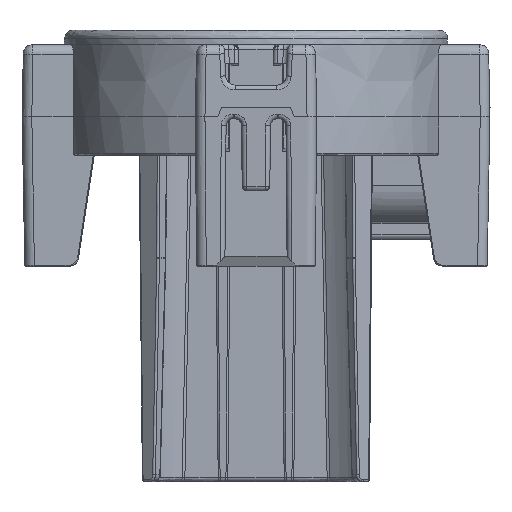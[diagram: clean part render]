
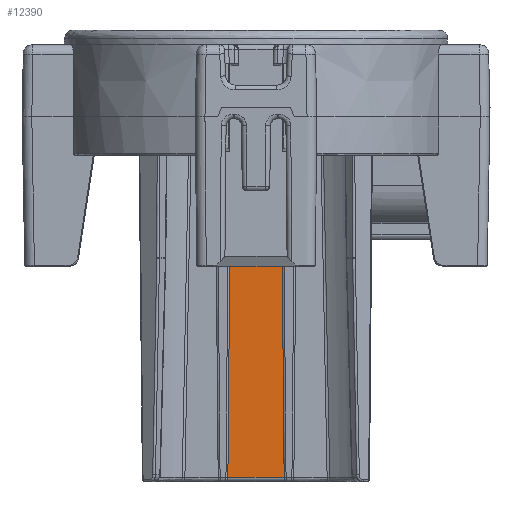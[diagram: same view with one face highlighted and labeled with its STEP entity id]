
A CAD part, left-side view. The second image highlights one B-rep face of the part: STEP entity #12390.
In plain terms, the highlighted planar face has unit normal (-1, 0, -0.009) as drawn and (0, -0.009, -1) by its records, which use the part's own axes.
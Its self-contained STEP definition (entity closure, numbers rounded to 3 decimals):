
#12000=CARTESIAN_POINT('',(21.647,9.487,
25.78));
#12010=DIRECTION('',(0.,-0.009,-1.));
#12020=DIRECTION('',(0.,-1.,0.009));
#12030=AXIS2_PLACEMENT_3D('',#12000,#12010,#12020);
#12040=PLANE('',#12030);
#12050=CARTESIAN_POINT('',(15.661,-15.582,
25.999));
#12060=DIRECTION('',(1.,0.,0.));
#12070=VECTOR('',#12060,1.);
#12080=LINE('',#12050,#12070);
#12090=CARTESIAN_POINT('',(15.661,-15.582,
25.999));
#12100=VERTEX_POINT('',#12090);
#12110=CARTESIAN_POINT('',(21.501,-15.582,
25.999));
#12120=VERTEX_POINT('',#12110);
#12130=EDGE_CURVE('',#12100,#12120,#12080,.T.);
#12140=ORIENTED_EDGE('',*,*,#12130,.F.);
#12150=CARTESIAN_POINT('',(21.365,0.,25.863));
#12160=DIRECTION('',(-0.009,1.,
-0.009));
#12170=VECTOR('',#12160,1.);
#12180=LINE('',#12150,#12170);
#12190=CARTESIAN_POINT('',(21.287,8.875,
25.785));
#12200=VERTEX_POINT('',#12190);
#12210=EDGE_CURVE('',#12120,#12200,#12180,.T.);
#12220=ORIENTED_EDGE('',*,*,#12210,.F.);
#12230=CARTESIAN_POINT('',(0.,8.875,25.785));
#12240=DIRECTION('',(1.,0.,-0.));
#12250=VECTOR('',#12240,1.);
#12260=LINE('',#12230,#12250);
#12270=CARTESIAN_POINT('',(15.875,8.875,
25.785));
#12280=VERTEX_POINT('',#12270);
#12290=EDGE_CURVE('',#12280,#12200,#12260,.T.);
#12300=ORIENTED_EDGE('',*,*,#12290,.T.);
#12310=CARTESIAN_POINT('',(15.797,0.,25.863));
#12320=DIRECTION('',(0.009,1.,
-0.009));
#12330=VECTOR('',#12320,1.);
#12340=LINE('',#12310,#12330);
#12350=EDGE_CURVE('',#12100,#12280,#12340,.T.);
#12360=ORIENTED_EDGE('',*,*,#12350,.T.);
#12370=EDGE_LOOP('',(#12360,#12300,#12220,#12140));
#12380=FACE_OUTER_BOUND('',#12370,.T.);
#12390=ADVANCED_FACE('',(#12380),#12040,.T.);
